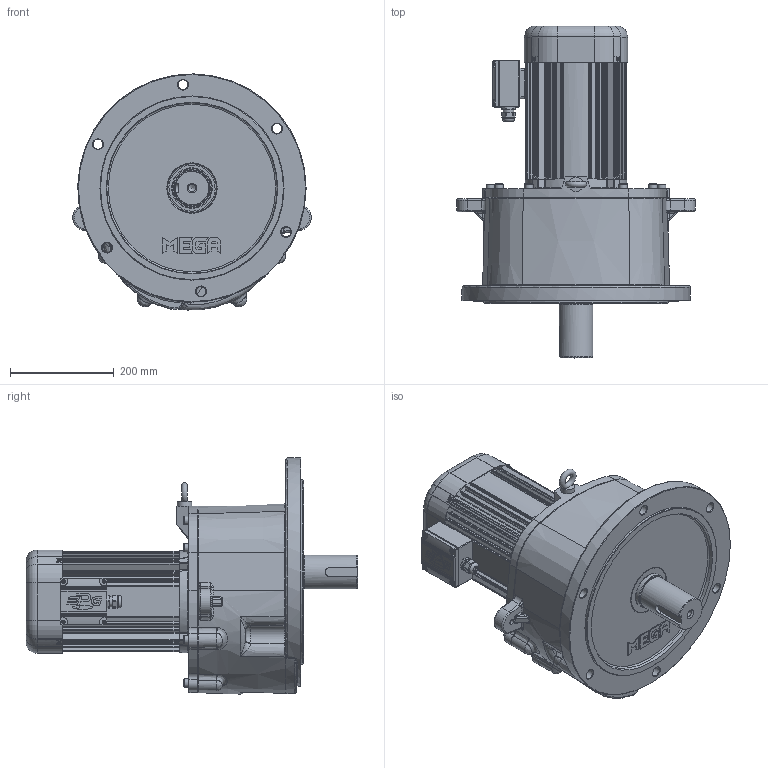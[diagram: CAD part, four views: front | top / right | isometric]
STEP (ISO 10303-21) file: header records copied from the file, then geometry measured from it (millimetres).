
FILE_DESCRIPTION(/* description */ (''),/* implementation_level */ '2;1');
FILE_NAME(/* name */ 'Z:\동력 3D 파일\PMK235_2.2kW_3D.stp',/* time_stamp */ '2021-12-01T09:22:38+09:00',/* author */ ('jaebok'),/* organization */ (''),/* preprocessor_version */ 'ST-DEVELOPER v18.1',/* originating_system */ 'Autodesk Inventor 2022',/* authorisation */ '');
FILE_SCHEMA (('AUTOMOTIVE_DESIGN { 1 0 10303 214 3 1 1 }'));
Products named in the file (1): 부품12
Bounding box: 459.83 x 640 x 455.2 mm (x, y, z)
Volume: 13378342.2 mm3; surface area: 1979479.9 mm2
Topology: 1 solids, 33 shells, 3416 faces, 8593 edges, 5160 vertices
Faces by surface type: plane 1068, cylinder 919, bspline 729, torus 341, cone 242, sphere 117
Full cylindrical faces by diameter (mm): 3.25 x1, 3.5 x4, 3.6 x4, 4 x21, 5 x13, 6 x5, 6.647 x4, 7 x8, 8 x5, 8.376 x1, 9 x4, 10 x9, 10.106 x11, 12 x9, 12.5 x1, 13 x8, 13.835 x1, 15 x1, 16 x8, 19 x6, 20 x2, 21 x1, 23.6 x1, 24 x1, 25 x1, 28 x1, 31 x1, 36 x1, 48 x1, 50 x2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
Entity records: 135702 total; most frequent: CARTESIAN_POINT 54542, ORIENTED_EDGE 16764, DIRECTION 15838, EDGE_CURVE 8382, AXIS2_PLACEMENT_3D 6418, VERTEX_POINT 5158, EDGE_LOOP 3674, CIRCLE 3594
